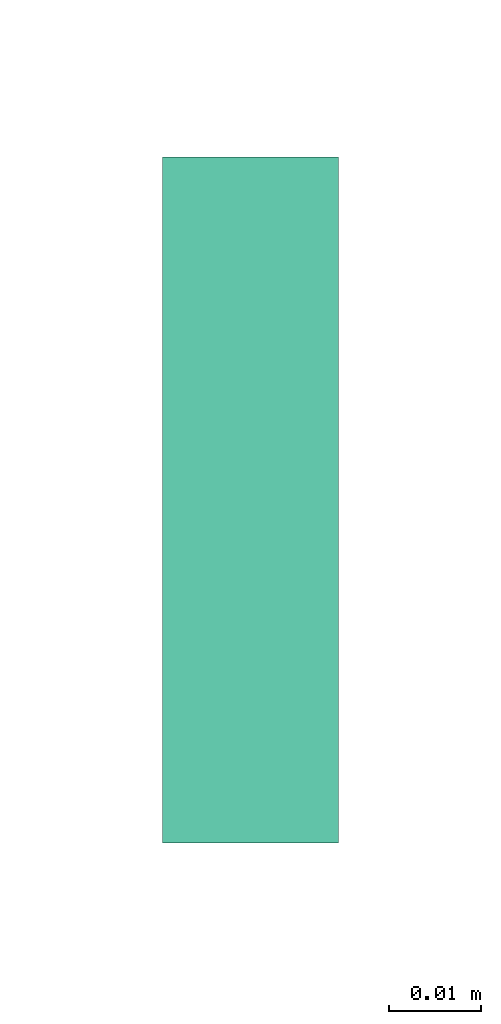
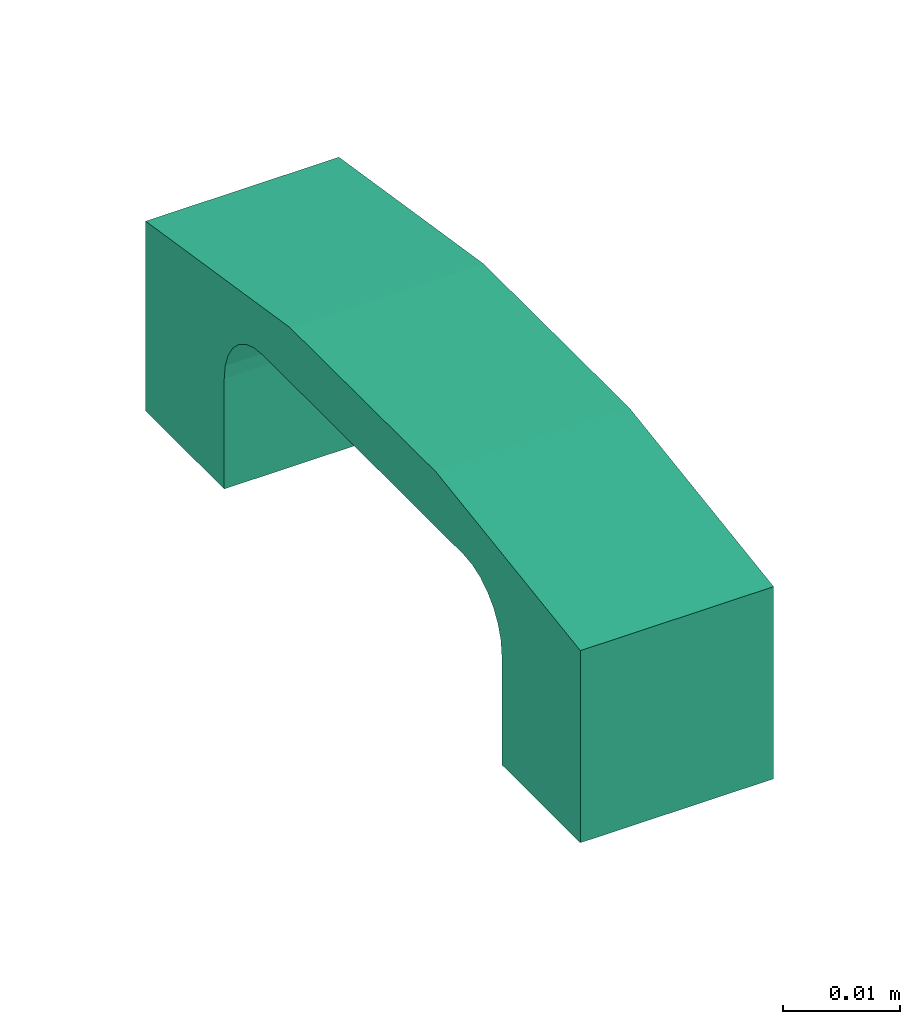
# One storey, part 14 of 87: 1 flow fitting.
"""IFC2X3 building model written with IfcOpenShell, lengths in millimetres."""

from ifc_helpers import new_model, entity, si_unit, converted_unit, derived_unit, direction, frame, frame_2d, origin, place, context, subcontext, project, spatial, polyline, circle_curve, parameter, trimmed, segment, composite_curve, outline, extrude, source, transform, mapped, material, type_object, type_shapes, element, save


model = new_model("IFC2X3")

# Units and contexts
model_context = context("Model", 3, precision=0.01, world=origin(), true_north=direction((6.12303176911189e-17, 1.0)))
body_context = subcontext(model_context, "Body", "Model", "MODEL_VIEW")
ifc_project = project(units=[si_unit("LENGTHUNIT", "METRE", prefix="MILLI"), si_unit("AREAUNIT", "SQUARE_METRE"), si_unit("VOLUMEUNIT", "CUBIC_METRE"), converted_unit("PLANEANGLEUNIT", "DEGREE", entity("IfcRatioMeasure", 0.0174532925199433), si_unit("PLANEANGLEUNIT", "RADIAN"), dimensions=[0, 0, 0, 0, 0, 0, 0]), si_unit("MASSUNIT", "GRAM", prefix="KILO"), derived_unit("MASSDENSITYUNIT", [(si_unit("MASSUNIT", "GRAM", prefix="KILO"), 1), (si_unit("LENGTHUNIT", "METRE"), -3)]), si_unit("TIMEUNIT", "SECOND"), si_unit("FREQUENCYUNIT", "HERTZ"), si_unit("THERMODYNAMICTEMPERATUREUNIT", "DEGREE_CELSIUS"), derived_unit("THERMALTRANSMITTANCEUNIT", [(si_unit("MASSUNIT", "GRAM", prefix="KILO"), 1), (si_unit("THERMODYNAMICTEMPERATUREUNIT", "KELVIN"), -1), (si_unit("TIMEUNIT", "SECOND"), -3)]), derived_unit("VOLUMETRICFLOWRATEUNIT", [(si_unit("LENGTHUNIT", "METRE"), 3), (si_unit("TIMEUNIT", "SECOND"), -1)]), si_unit("ELECTRICCURRENTUNIT", "AMPERE"), si_unit("ELECTRICVOLTAGEUNIT", "VOLT"), si_unit("POWERUNIT", "WATT"), si_unit("FORCEUNIT", "NEWTON", prefix="KILO"), si_unit("ILLUMINANCEUNIT", "LUX"), si_unit("LUMINOUSFLUXUNIT", "LUMEN"), si_unit("LUMINOUSINTENSITYUNIT", "CANDELA"), derived_unit("USERDEFINED", [(si_unit("MASSUNIT", "GRAM", prefix="KILO"), -1), (si_unit("LENGTHUNIT", "METRE"), -2), (si_unit("TIMEUNIT", "SECOND"), 3), (si_unit("LUMINOUSFLUXUNIT", "LUMEN"), 1)]), derived_unit("LINEARVELOCITYUNIT", [(si_unit("LENGTHUNIT", "METRE"), 1), (si_unit("TIMEUNIT", "SECOND"), -1)]), si_unit("PRESSUREUNIT", "PASCAL"), derived_unit("USERDEFINED", [(si_unit("LENGTHUNIT", "METRE"), -2), (si_unit("MASSUNIT", "GRAM", prefix="KILO"), 1), (si_unit("TIMEUNIT", "SECOND"), -2)])], contexts=[model_context])

# Site, building, storey
site_placement = place(None, origin())
site = spatial("IfcSite", under=ifc_project, at=site_placement, Name="Default", CompositionType="ELEMENT")
building_placement = place(site_placement, origin())
building = spatial("IfcBuilding", under=site, at=building_placement, Name="Наименование здания", CompositionType="ELEMENT")
storey_placement = place(building_placement, origin())
storey = spatial("IfcBuildingStorey", under=building, at=storey_placement, Name="Этаж 01", CompositionType="ELEMENT", Elevation=0.0)

# Flow fitting
ifc_material = material(Name="DKC_Пластик_Белый")
cable_carrier_fitting_type = type_object("IfcCableCarrierFittingType", Name="Адаптер", PredefinedType="NOTDEFINED", material=ifc_material)
shared_shape = source(origin(), body_context, "Body", "SweptSolid", [
    extrude(outline(composite_curve([segment(polyline([(23.7499999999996, -9.89007955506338), (37.2000000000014, -9.89007955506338)]), True, "CONTINUOUS"), segment(polyline([(37.2000000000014, -9.89007955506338), (37.2000000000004, 9.93532195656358)]), True, "CONTINUOUS"), segment(trimmed(circle_curve(frame_2d((-0.539960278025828, -150.636663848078), x_axis=(1.0, 0.0)), 164.947468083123), [parameter(76.7735742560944)], [parameter(102.841386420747)], True, "PARAMETER"), True, "CONTINUOUS"), segment(polyline([(-37.2000000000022, 10.1853144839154), (-37.2000000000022, -9.89007955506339)]), True, "CONTINUOUS"), segment(polyline([(-37.2000000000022, -9.89007955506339), (-23.749999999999, -9.89007955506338)]), True, "CONTINUOUS"), segment(polyline([(-23.749999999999, -9.89007955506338), (-23.749999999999, 1.60992044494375)]), True, "CONTINUOUS"), segment(trimmed(circle_curve(frame_2d((-17.2499999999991, 1.60992044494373), x_axis=(1.0, 0.0)), 6.49999999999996), [parameter(90.0000000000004)], [parameter(180.0)], True, "PARAMETER"), False, "CONTINUOUS"), segment(polyline([(-17.2499999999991, 8.10992044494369), (17.2499999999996, 8.10992044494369)]), True, "CONTINUOUS"), segment(trimmed(circle_curve(frame_2d((17.2499999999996, 1.60992044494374), x_axis=(1.0, 0.0)), 6.49999999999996), [parameter(3.56222124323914e-13)], [parameter(90.0000000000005)], True, "PARAMETER"), False, "CONTINUOUS"), segment(polyline([(23.7499999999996, 1.60992044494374), (23.7499999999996, -9.89007955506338)]), True, "CONTINUOUS")], self_intersect=False)), frame((-19.1000000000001, 0.0, 0.890079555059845), z_axis=(1.0, 0.0, 0.0), x_axis=(0.0, 1.0, 0.0)), (0.0, 0.0, 1.0), 19.1000000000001),
])
type_shapes(cable_carrier_fitting_type, [shared_shape])
flow_fitting_placement = place(storey_placement, frame((12947.2540134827, -38499.0852323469, 0.0)))
element("IfcFlowFitting", 1, at=flow_fitting_placement, inside=storey, type_object=cable_carrier_fitting_type, material=ifc_material, Name="КНС_АдаптерДляВводаКороба70×22ВКоробки_ILF_DKC:Адаптер", ObjectType="Адаптер", context=body_context, shape_type="MappedRepresentation", body=[
    mapped(shared_shape, transform((0.0, 0.0, 0.0), scale=1.0)),
])

save(model, "model.ifc")
